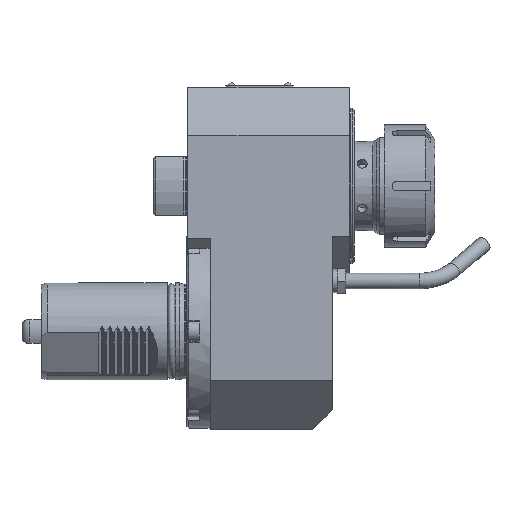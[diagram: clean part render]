
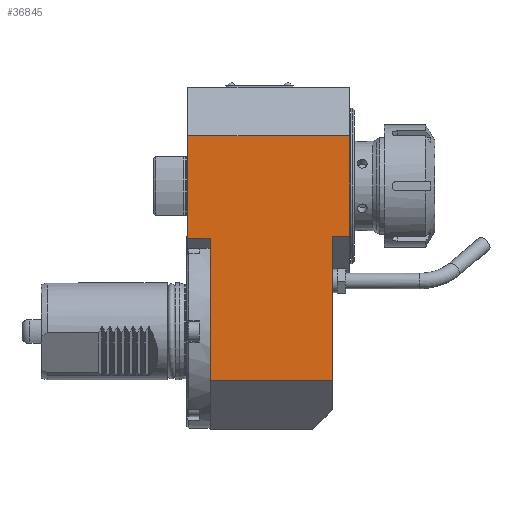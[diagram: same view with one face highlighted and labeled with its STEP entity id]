
A CAD part, front view. The second image highlights one B-rep face of the part: STEP entity #36845.
In plain terms, the highlighted planar face has unit normal (0, -1, 0).
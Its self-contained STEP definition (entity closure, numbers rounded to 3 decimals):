
#13298=ORIENTED_EDGE('',*,*,#17493,.T.);
#13299=ORIENTED_EDGE('',*,*,#17494,.T.);
#13300=ORIENTED_EDGE('',*,*,#17495,.F.);
#13301=ORIENTED_EDGE('',*,*,#17496,.F.);
#13302=ORIENTED_EDGE('',*,*,#17491,.F.);
#13303=ORIENTED_EDGE('',*,*,#17482,.T.);
#13304=ORIENTED_EDGE('',*,*,#17497,.T.);
#13305=ORIENTED_EDGE('',*,*,#17498,.T.);
#13306=ORIENTED_EDGE('',*,*,#17499,.F.);
#15512=VECTOR('',#20223,1.);
#15520=VECTOR('',#20239,1.);
#15522=VECTOR('',#20243,1.);
#15523=VECTOR('',#20244,1.);
#15524=VECTOR('',#20245,1.);
#15525=VECTOR('',#20246,1.);
#15526=VECTOR('',#20247,1.);
#15527=VECTOR('',#20248,1.);
#15528=VECTOR('',#20249,1.);
#16092=LINE('',#22917,#15512);
#16100=LINE('',#22935,#15520);
#16102=LINE('',#22940,#15522);
#16103=LINE('',#22942,#15523);
#16104=LINE('',#22944,#15524);
#16105=LINE('',#22945,#15525);
#16106=LINE('',#22947,#15526);
#16107=LINE('',#22949,#15527);
#16108=LINE('',#22950,#15528);
#16674=VERTEX_POINT('',#22914);
#16675=VERTEX_POINT('',#22916);
#16681=VERTEX_POINT('',#22934);
#16682=VERTEX_POINT('',#22938);
#16683=VERTEX_POINT('',#22939);
#16684=VERTEX_POINT('',#22941);
#16685=VERTEX_POINT('',#22943);
#16686=VERTEX_POINT('',#22946);
#16687=VERTEX_POINT('',#22948);
#17482=EDGE_CURVE('',#16675,#16674,#16092,.T.);
#17491=EDGE_CURVE('',#16675,#16681,#16100,.T.);
#17493=EDGE_CURVE('',#16682,#16683,#16102,.T.);
#17494=EDGE_CURVE('',#16683,#16684,#16103,.T.);
#17495=EDGE_CURVE('',#16685,#16684,#16104,.T.);
#17496=EDGE_CURVE('',#16681,#16685,#16105,.T.);
#17497=EDGE_CURVE('',#16674,#16686,#16106,.T.);
#17498=EDGE_CURVE('',#16686,#16687,#16107,.T.);
#17499=EDGE_CURVE('',#16682,#16687,#16108,.T.);
#18588=EDGE_LOOP('',(#13298,#13299,#13300,#13301,#13302,#13303,#13304,#13305,
#13306));
#19390=FACE_BOUND('',#18588,.T.);
#20223=DIRECTION('',(0.,0.,52.));
#20239=DIRECTION('',(-9.,0.,0.));
#20241=DIRECTION('',(0.,-1.,0.));
#20242=DIRECTION('',(-1.,0.,0.));
#20243=DIRECTION('',(0.,0.,-48.));
#20244=DIRECTION('',(0.,0.,-25.5));
#20245=DIRECTION('',(-63.,0.,0.));
#20246=DIRECTION('',(0.,0.,-74.5));
#20247=DIRECTION('',(-83.5,0.,0.));
#20248=DIRECTION('',(0.,0.,-53.));
#20249=DIRECTION('',(-11.5,0.,0.));
#22914=CARTESIAN_POINT('',(84.,-50.,101.));
#22916=CARTESIAN_POINT('',(84.,-50.,49.));
#22917=CARTESIAN_POINT('',(84.,-50.,49.));
#22934=CARTESIAN_POINT('',(75.,-50.,49.));
#22935=CARTESIAN_POINT('',(84.,-50.,49.));
#22937=CARTESIAN_POINT('',(84.,-50.,49.));
#22938=CARTESIAN_POINT('',(12.,-50.,48.));
#22939=CARTESIAN_POINT('',(12.,-50.,0.));
#22940=CARTESIAN_POINT('',(12.,-50.,48.));
#22941=CARTESIAN_POINT('',(12.,-50.,-25.5));
#22942=CARTESIAN_POINT('',(12.,-50.,0.));
#22943=CARTESIAN_POINT('',(75.,-50.,-25.5));
#22944=CARTESIAN_POINT('',(75.,-50.,-25.5));
#22945=CARTESIAN_POINT('',(75.,-50.,49.));
#22946=CARTESIAN_POINT('',(0.5,-50.,101.));
#22947=CARTESIAN_POINT('',(84.,-50.,101.));
#22948=CARTESIAN_POINT('',(0.5,-50.,48.));
#22949=CARTESIAN_POINT('',(0.5,-50.,101.));
#22950=CARTESIAN_POINT('',(12.,-50.,48.));
#35458=AXIS2_PLACEMENT_3D('',#22937,#20241,#20242);
#36504=PLANE('',#35458);
#36845=ADVANCED_FACE('',(#19390),#36504,.T.);
